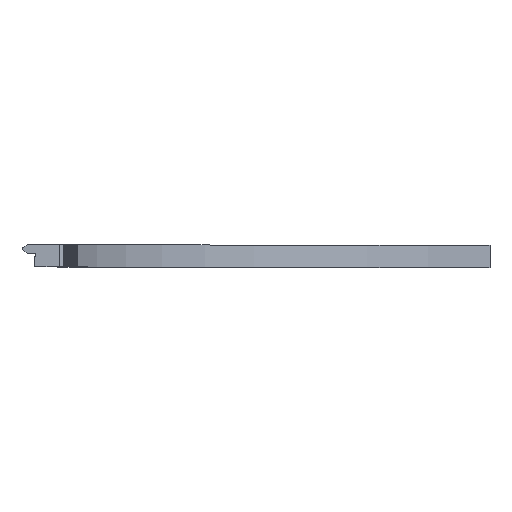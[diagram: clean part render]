
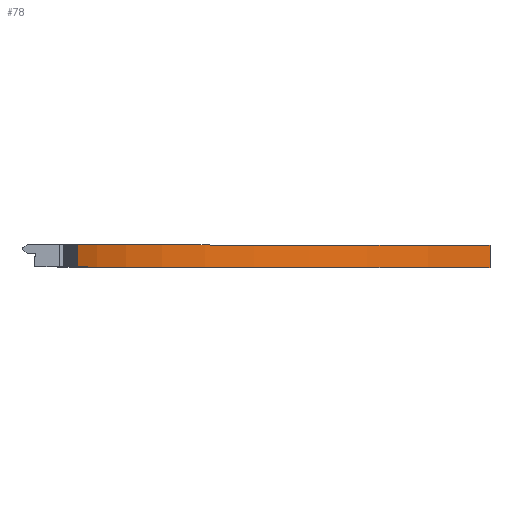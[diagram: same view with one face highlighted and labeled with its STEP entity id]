
A CAD part, top view. The second image highlights one B-rep face of the part: STEP entity #78.
In plain terms, the highlighted cylindrical face has radius 298.75 mm (diameter 597.5 mm), a partial arc.
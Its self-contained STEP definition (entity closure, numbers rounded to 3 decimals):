
#78 = ADVANCED_FACE( '', ( #195 ), #196, .F. );
#195 = FACE_OUTER_BOUND( '', #439, .T. );
#196 = CYLINDRICAL_SURFACE( '', #440, 298.75 );
#439 = EDGE_LOOP( '', ( #781, #782, #783, #784 ) );
#440 = AXIS2_PLACEMENT_3D( '', #785, #786, #787 );
#781 = ORIENTED_EDGE( '', *, *, #1583, .F. );
#782 = ORIENTED_EDGE( '', *, *, #1660, .T. );
#783 = ORIENTED_EDGE( '', *, *, #1661, .T. );
#784 = ORIENTED_EDGE( '', *, *, #1571, .T. );
#785 = CARTESIAN_POINT( '', ( 0., 0., 0. ) );
#786 = DIRECTION( '', ( 0., 1., 0. ) );
#787 = DIRECTION( '', ( 0., 0., -1. ) );
#1571 = EDGE_CURVE( '', #1848, #1864, #1866, .F. );
#1583 = EDGE_CURVE( '', #1887, #1864, #1889, .T. );
#1660 = EDGE_CURVE( '', #1887, #2041, #2042, .T. );
#1661 = EDGE_CURVE( '', #2041, #1848, #2043, .T. );
#1848 = VERTEX_POINT( '', #2331 );
#1864 = VERTEX_POINT( '', #2367 );
#1866 = LINE( '', #2370, #2371 );
#1887 = VERTEX_POINT( '', #2396 );
#1889 = CIRCLE( '', #2399, 298.75 );
#2041 = VERTEX_POINT( '', #2589 );
#2042 = LINE( '', #2590, #2591 );
#2043 = CIRCLE( '', #2592, 298.75 );
#2331 = CARTESIAN_POINT( '', ( -2.5, 0., -298.74 ) );
#2367 = CARTESIAN_POINT( '', ( -2.5, 15.5, -298.74 ) );
#2370 = CARTESIAN_POINT( '', ( -2.5, 0., -298.74 ) );
#2371 = VECTOR( '', #3018, 1000. );
#2396 = CARTESIAN_POINT( '', ( -289.183, 15.5, -75. ) );
#2399 = AXIS2_PLACEMENT_3D( '', #3045, #3046, #3047 );
#2589 = CARTESIAN_POINT( '', ( -289.183, 0., -75. ) );
#2590 = CARTESIAN_POINT( '', ( -289.183, 0., -75. ) );
#2591 = VECTOR( '', #3200, 1000. );
#2592 = AXIS2_PLACEMENT_3D( '', #3201, #3202, #3203 );
#3018 = DIRECTION( '', ( 0., -1., 0. ) );
#3045 = CARTESIAN_POINT( '', ( 0., 15.5, 0. ) );
#3046 = DIRECTION( '', ( 0., -1., 0. ) );
#3047 = DIRECTION( '', ( 0., 0., -1. ) );
#3200 = DIRECTION( '', ( 0., -1., 0. ) );
#3201 = CARTESIAN_POINT( '', ( 0., 0., 0. ) );
#3202 = DIRECTION( '', ( 0., -1., 0. ) );
#3203 = DIRECTION( '', ( 0., 0., -1. ) );
